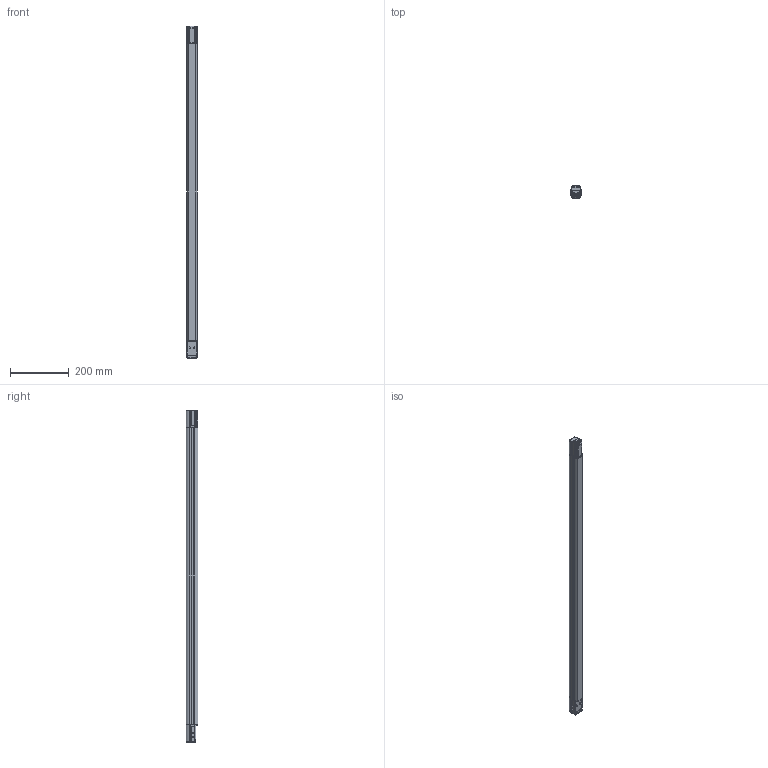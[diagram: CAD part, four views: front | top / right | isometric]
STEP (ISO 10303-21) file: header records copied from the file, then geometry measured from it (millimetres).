
FILE_DESCRIPTION(/* description */ (''),/* implementation_level */ '2;1');
FILE_NAME(/* name */ 'AP046320_00-DSD-1135 SH4-4-0900 ACTIVE.stp',/* time_stamp */ '2023-06-14T09:48:33+02:00',/* author */ (''),/* organization */ (''),/* preprocessor_version */ 'ST-DEVELOPER v16.701',/* originating_system */ 'SIEMENS PLM Software NX 1946',/* authorisation */ '');
FILE_SCHEMA (('AUTOMOTIVE_DESIGN { 1 0 10303 214 3 1 1 1 }'));
Length unit declared in the file: millimetre
Products named in the file (1): FGut3968831C8g4w
Bounding box: 35.08 x 40 x 1126 mm (x, y, z)
Volume: 1315099.3 mm3; surface area: 264640.9 mm2
Topology: 6 solids, 11 shells, 891 faces, 2381 edges, 1502 vertices
Faces by surface type: plane 363, cylinder 315, bspline 92, cone 55, extrusion 24, sphere 22, torus 20
Full cylindrical faces by diameter (mm): 2.013 x4, 2.2 x4, 3 x4, 4.37 x4, 5 x8
Entity records: 35021 total; most frequent: CARTESIAN_POINT 13676, ORIENTED_EDGE 4482, DIRECTION 3861, EDGE_CURVE 2241, VERTEX_POINT 1468, AXIS2_PLACEMENT_3D 1343, VECTOR 1175, LINE 1151
